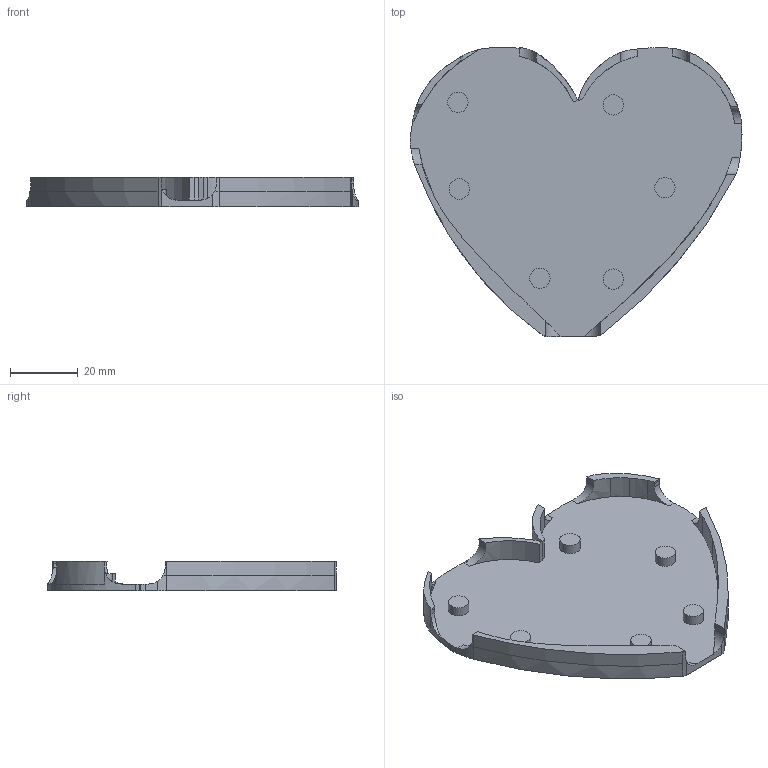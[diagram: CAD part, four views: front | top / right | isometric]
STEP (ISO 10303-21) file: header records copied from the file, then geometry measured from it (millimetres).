
FILE_DESCRIPTION(('HOOPS Exchange Step'),'2;1');
FILE_NAME('/private/var/mobile/Containers/Data/Application/04E281CF-8C7B-4885-B479-013C4A08D58B/tmp/export/temp_export','2026-07-20T14:13:52+05:00',('mobile'),('Shapr3D Limited'),'HOOPS Exchange 2026.3','Shapr3D','Authorized');
FILE_SCHEMA( ('AP242_MANAGED_MODEL_BASED_3D_ENGINEERING_MIM_LF {1 0 10303 442 1 1 4}') );
Length unit declared in the file: millimetre
Products named in the file (1): lower body
Bounding box: 97.76 x 85.19 x 8.75 mm (x, y, z)
Volume: 16250.1 mm3; surface area: 16075.1 mm2
Topology: 1 solids, 1 shells, 125 faces, 385 edges, 268 vertices
Faces by surface type: cylinder 69, plane 30, bspline 26
Full cylindrical faces by diameter (mm): 6 x6
Entity records: 5817 total; most frequent: CARTESIAN_POINT 2475, ORIENTED_EDGE 774, DIRECTION 602, EDGE_CURVE 387, VERTEX_POINT 272, AXIS2_PLACEMENT_3D 226, VECTOR 150, LINE 150
